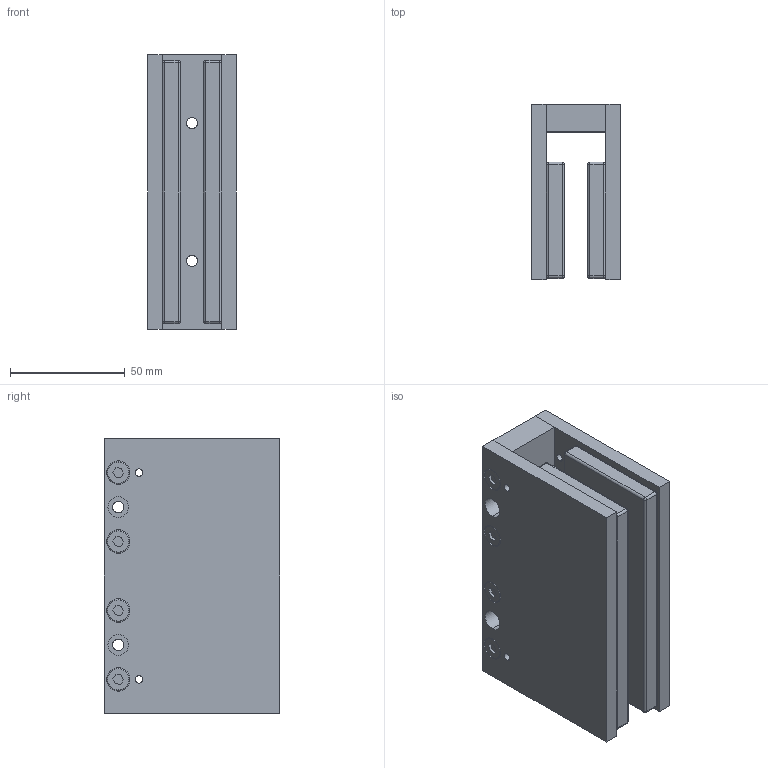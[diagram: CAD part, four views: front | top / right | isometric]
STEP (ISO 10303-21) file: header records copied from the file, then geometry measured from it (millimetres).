
FILE_DESCRIPTION (( 'STEP AP214' ), '1' );
FILE_NAME ('DX50F-TL120.step', '2021-01-04T09:38:29', ( '' ), ( '' ), 'SwSTEP 2.0', 'SolidWorks 2020', '' );
FILE_SCHEMA (( 'AUTOMOTIVE_DESIGN' ));
Length unit declared in the file: millimetre
Products named in the file (1): DX50F-TL120
Bounding box: 38.7 x 76.2 x 119.5 mm (x, y, z)
Volume: 240895.1 mm3; surface area: 57316.6 mm2
Topology: 1 solids, 5 shells, 286 faces, 626 edges, 376 vertices
Faces by surface type: cylinder 128, plane 126, sphere 16, torus 16
Entity records: 10902 total; most frequent: DIRECTION 1448, CARTESIAN_POINT 1297, ORIENTED_EDGE 1220, EDGE_CURVE 610, AXIS2_PLACEMENT_3D 559, VERTEX_POINT 376, EDGE_LOOP 348, VECTOR 330
